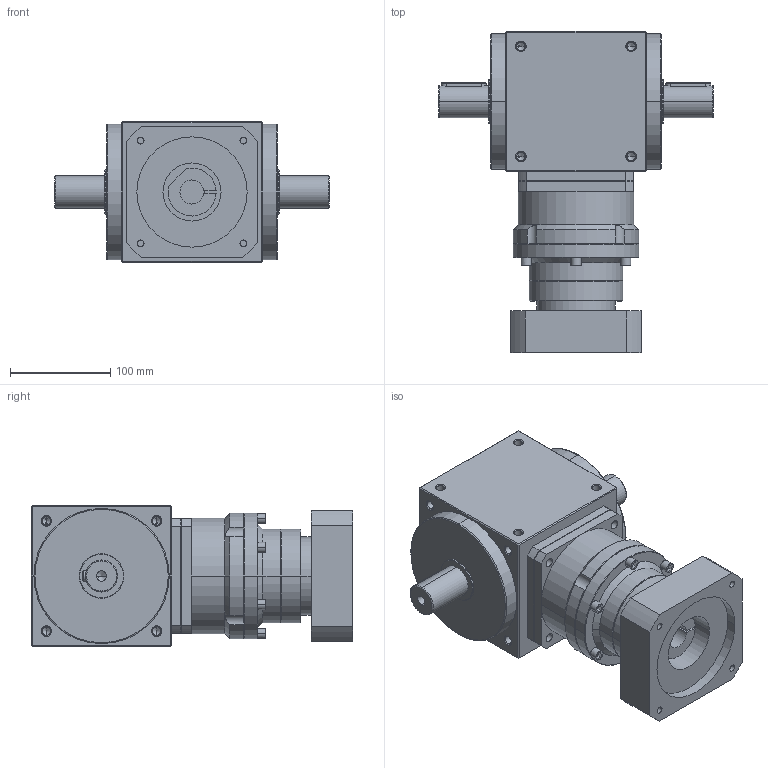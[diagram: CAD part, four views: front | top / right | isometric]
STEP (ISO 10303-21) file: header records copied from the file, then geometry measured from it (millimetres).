
FILE_DESCRIPTION (( 'STEP AP203' ), '1' );
FILE_NAME ('AT140-FL-L2 24-110-145-M8.STEP', '2024-12-21T08:07:22', ( '' ), ( '' ), 'SwSTEP 2.0', 'SolidWorks 2021', '' );
FILE_SCHEMA (( 'CONFIG_CONTROL_DESIGN' ));
Length unit declared in the file: millimetre
Products named in the file (3): AT140-FL; AT140-FL-L2 24-110-145-M8; VRB-115-L2-S2-P1 24-110-145-M8
Assembly tree (2 placements, depth 2):
  AT140-FL-L2 24-110-145-M8
    AT140-FL
    VRB-115-L2-S2-P1 24-110-145-M8
Bounding box: 274 x 320.5 x 140 mm (x, y, z)
Volume: 5258331.7 mm3; surface area: 302070.5 mm2
Topology: 2 solids, 2 shells, 458 faces, 1119 edges, 648 vertices
Faces by surface type: cylinder 178, plane 144, cone 120, torus 8, bspline 8
Entity records: 13929 total; most frequent: CARTESIAN_POINT 3253, DIRECTION 2232, ORIENTED_EDGE 2146, EDGE_CURVE 1073, AXIS2_PLACEMENT_3D 853, VERTEX_POINT 648, VECTOR 526, LINE 526
